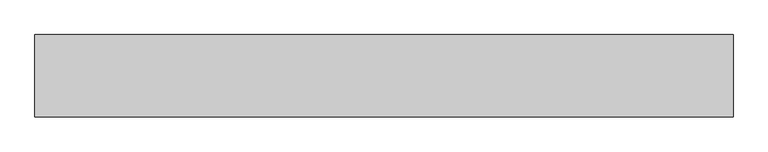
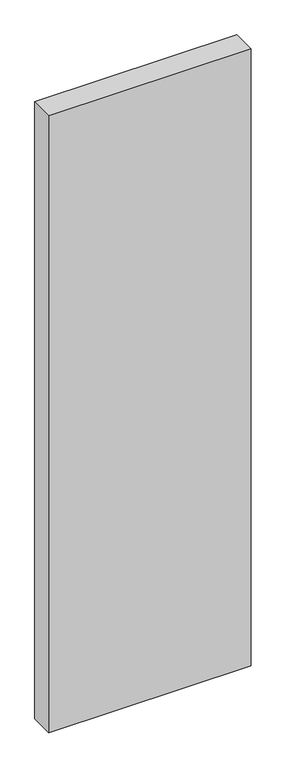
"""IFC4 building model written with IfcOpenShell, lengths in millimetres: column geometry, Coluna de Sustentação de tijolo Maciço : coluna da quadra 2."""

from ifc_helpers import new_model, si_unit, frame, origin, place, context, project, spatial, polyline, outline, extrude, source, transform, mapped, element, save


def column_bc19908c(model_context):
    return source(origin(), model_context, "Body", "SweptSolid", [
        extrude(outline(polyline([(850.0, 100.0), (850.0, -100.0), (-850.0, -100.0), (-850.0, 100.0), (850.0, 100.0)])), frame((0.0, 0.0, 220.0), z_axis=(0.0, 0.0, 1.0), x_axis=(1.0, 0.0, 0.0)), (0.0, 0.0, 1.0), 5480.0),
    ])


if __name__ == "__main__":
    model = new_model("IFC4")
    model_context = context("Model", 3, world=origin())
    ifc_project = project(units=[si_unit("LENGTHUNIT", "METRE", prefix="MILLI")], contexts=[model_context])
    site = spatial("IfcSite", under=ifc_project)
    building = spatial("IfcBuilding", under=site)
    placement = place(None, origin())
    column_shape = column_bc19908c(model_context)
    element("IfcColumn", 1, ObjectType="Coluna de Sustentação de tijolo Maciço : coluna da quadra 2", at=placement, inside=building, context=model_context, shape_type="MappedRepresentation", body=[
        mapped(column_shape, transform((0.0, 0.0, 0.0), x_axis=(1.0, 0.0, 0.0), y_axis=(0.0, 1.0, 0.0), z_axis=(0.0, 0.0, 1.0))),
    ])
    save(model, "model.ifc")
